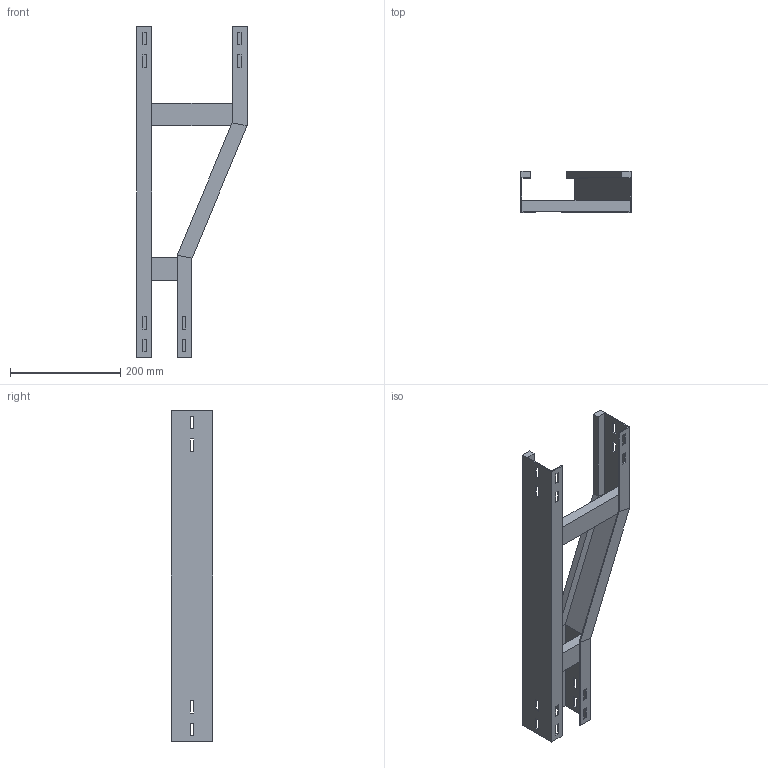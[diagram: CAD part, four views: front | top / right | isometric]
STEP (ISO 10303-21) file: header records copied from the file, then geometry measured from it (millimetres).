
FILE_DESCRIPTION (( 'STEP AP214' ), '1' );
FILE_NAME ('B2X22B1C200XX.step', '2025-09-02T17:18:21', ( '' ), ( '' ), 'SwSTEP 2.0', 'SolidWorks 2023', '' );
FILE_SCHEMA (( 'AUTOMOTIVE_DESIGN' ));
Length unit declared in the file: millimetre
Products named in the file (5): TRAVERSINO_100; B2X22B1C200XX; SPONDA DRITTA_H75; SPONDA RID. SX 200-100_H75; TRAVERSINO_200
Assembly tree (4 placements, depth 2):
  B2X22B1C200XX
    SPONDA DRITTA_H75
    TRAVERSINO_100
    TRAVERSINO_200
    SPONDA RID. SX 200-100_H75
Bounding box: 200 x 75 x 600 mm (x, y, z)
Volume: 709832 mm3; surface area: 324988 mm2
Topology: 4 solids, 4 shells, 112 faces, 296 edges, 192 vertices
Faces by surface type: plane 112
Entity records: 3590 total; most frequent: CARTESIAN_POINT 607, ORIENTED_EDGE 592, DIRECTION 534, EDGE_CURVE 296, LINE 296, VECTOR 296, VERTEX_POINT 192, EDGE_LOOP 144
